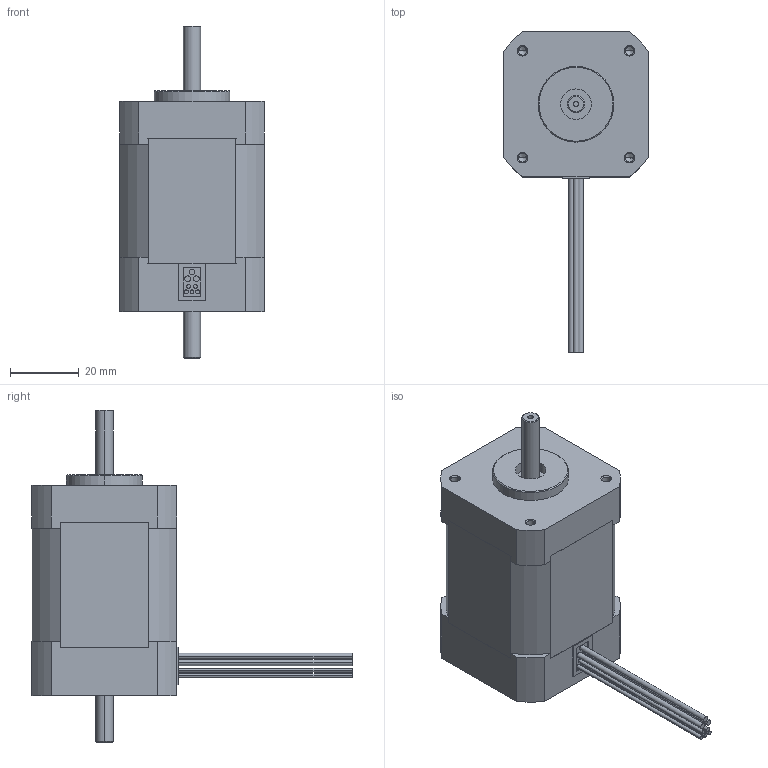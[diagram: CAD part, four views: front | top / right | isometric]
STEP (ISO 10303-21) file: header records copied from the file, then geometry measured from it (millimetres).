
FILE_DESCRIPTION (( 'STEP AP214' ), '1' );
FILE_NAME ('BLY172D.STEP', '2011-11-22T17:00:41', ( '' ), ( '' ), 'SwSTEP 2.0', 'SolidWorks 2011', '' );
FILE_SCHEMA (( 'AUTOMOTIVE_DESIGN' ));
Length unit declared in the file: inch
Products named in the file (1): BLY172D
Bounding box: 42.01 x 92.81 x 96.27 mm (x, y, z)
Volume: 103935.4 mm3; surface area: 16395.4 mm2
Topology: 1 solids, 1 shells, 216 faces, 522 edges, 332 vertices
Faces by surface type: plane 108, cylinder 78, cone 30
Entity records: 7725 total; most frequent: DIRECTION 1118, CARTESIAN_POINT 1059, ORIENTED_EDGE 1020, EDGE_CURVE 510, AXIS2_PLACEMENT_3D 391, LINE 336, VECTOR 336, VERTEX_POINT 332
